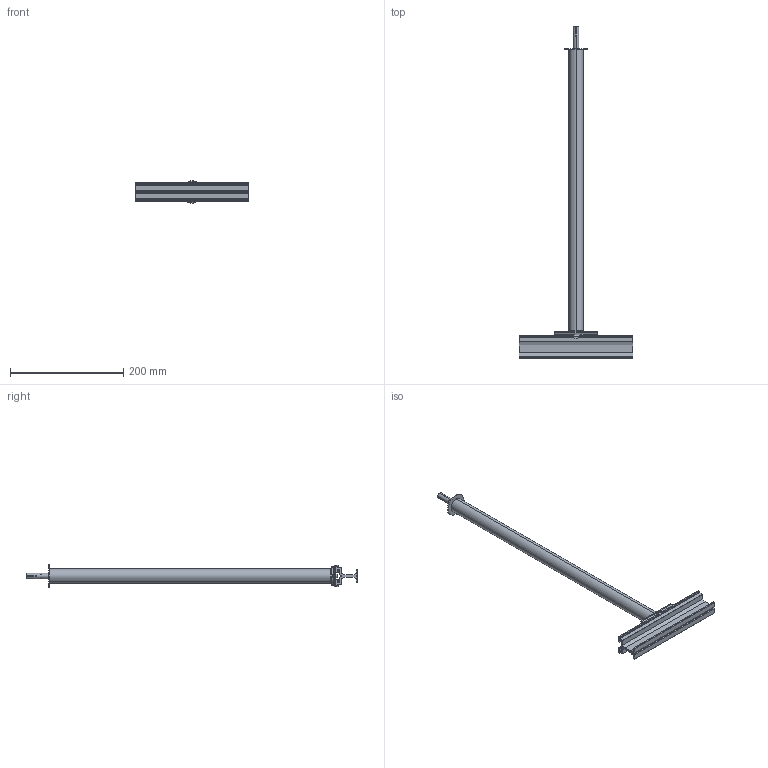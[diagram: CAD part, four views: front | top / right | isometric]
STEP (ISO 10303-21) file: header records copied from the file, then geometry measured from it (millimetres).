
FILE_DESCRIPTION (( 'STEP AP214' ), '1' );
FILE_NAME ('31158093_0500_off_tr95_gt2_asm.STEP', '2021-03-17T14:39:16', ( '' ), ( '' ), 'SwSTEP 2.0', 'SolidWorks 2019', '' );
FILE_SCHEMA (( 'AUTOMOTIVE_DESIGN' ));
Length unit declared in the file: millimetre
Products named in the file (17): 31158161_02_DREHRIEGEL; 31158171_01_MONTAGEPLATTE_II; 31158171_G-TWIST_II_SW_ASM; 31158093_0500_off_tr95_gt2_asm; E24032_MT_080_8_1; 31158093_01_0500_ALU_ROHR_25_2; 31158161_03_FEDERSCHEIBE; E24035_040D5; I7380_04_06_ST; I10642_06_020_88; 31158094_02_0500_GEWSTANGE_M8; 2017071950_02_SCHEIBE; EINSCHLAGANKER_EA_M8; REDUZIERMUFFE_M6_M8; 0000284493_KOTFLUEGELSCHEIBE; D433_T1_043_250_ST; Trumpt 95
Assembly tree (24 placements, depth 3):
  31158093_0500_off_tr95_gt2_asm
    EINSCHLAGANKER_EA_M8
    31158094_02_0500_GEWSTANGE_M8
    REDUZIERMUFFE_M6_M8
    E24032_MT_080_8_1  x2
    31158093_01_0500_ALU_ROHR_25_2
    2017071950_02_SCHEIBE
    31158171_G-TWIST_II_SW_ASM
      31158171_01_MONTAGEPLATTE_II
      31158161_02_DREHRIEGEL  x2
      31158161_03_FEDERSCHEIBE  x4
      D433_T1_043_250_ST  x2
      I7380_04_06_ST  x2
      E24035_040D5  x2
    I10642_06_020_88
    0000284493_KOTFLUEGELSCHEIBE
    Trumpt 95
Bounding box: 200 x 586.5 x 40 mm (x, y, z)
Volume: 155546.4 mm3; surface area: 163932 mm2
Topology: 17 solids, 30 shells, 983 faces, 2574 edges, 1666 vertices
Faces by surface type: plane 657, cylinder 194, cone 118, bspline 14
Entity records: 26226 total; most frequent: CARTESIAN_POINT 5313, ORIENTED_EDGE 4236, DIRECTION 4079, EDGE_CURVE 2130, LINE 1665, VECTOR 1665, VERTEX_POINT 1389, AXIS2_PLACEMENT_3D 1207
